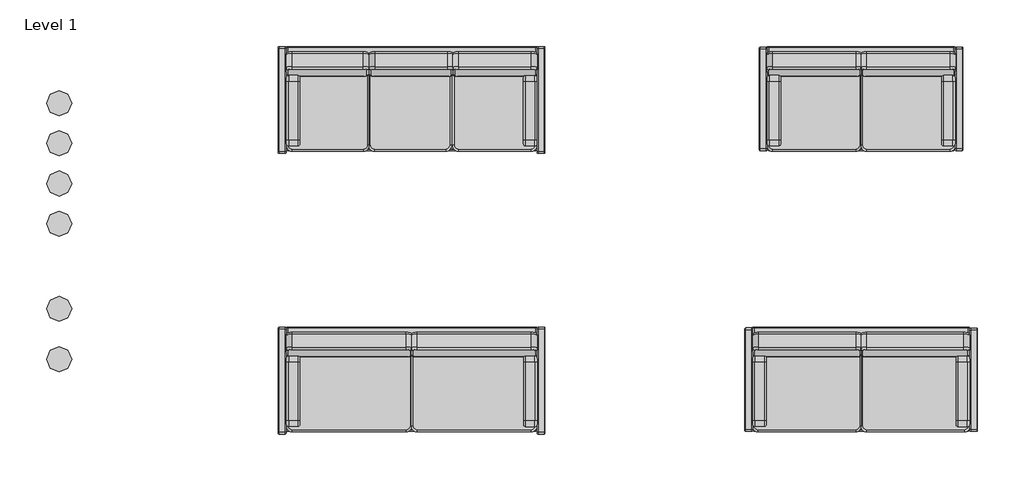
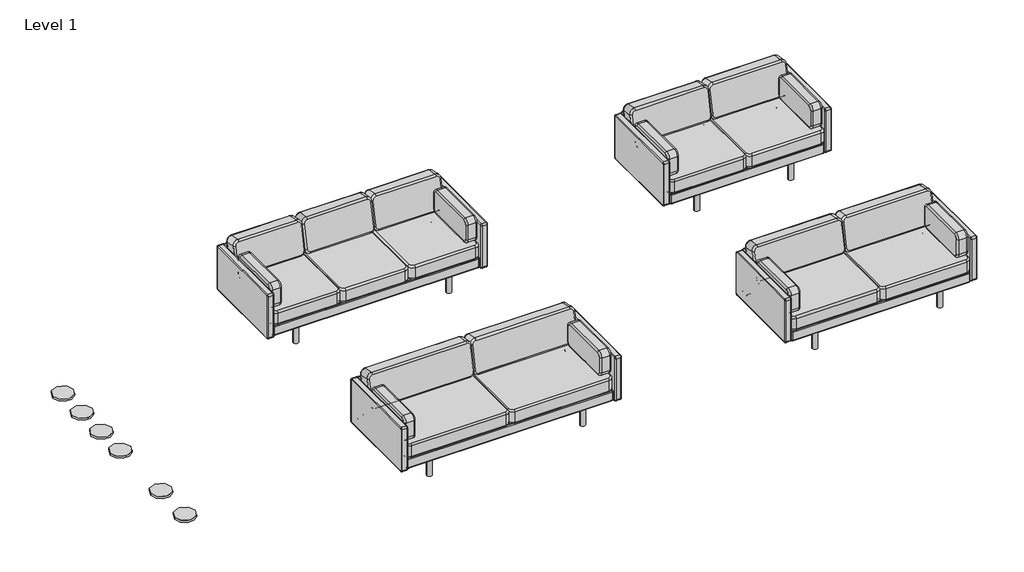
# One storey: 6 proxies, 4 furniture elements.
"""IFC4 building model written with IfcOpenShell, lengths in millimetres."""

from ifc_helpers import new_model, si_unit, origin, place, context, project, spatial, transform, mapped, element, save
from components import materialmodel_materialmodel_ac00f72a, furniture_535c16df, furniture_62b41049, furniture_a06d87e3, furniture_298e50f7, furniture_a2e73fbc, furniture_a04cfc03, furniture_aac3e620, furniture_254e2627, furniture_f1a134c2, furniture_044e4372, furniture_b410e468, furniture_08a45eda, furniture_6027f4fa

model = new_model("IFC4")

# Units and contexts
model_context = context("Model", 3, world=origin())
ifc_project = project(units=[si_unit("LENGTHUNIT", "METRE", prefix="MILLI")], contexts=[model_context])

# Site, building, storey
site = spatial("IfcSite", under=ifc_project)
building = spatial("IfcBuilding", under=site)
storey = spatial("IfcBuildingStorey", under=building, Name="Level 1", Elevation=0.0)

# Proxies
placement = place(None, origin())
materialmodel_materialmodel_shape = materialmodel_materialmodel_ac00f72a(model_context)
element("IfcBuildingElementProxy", 1, Name="MaterialModel : MaterialModel", ObjectType="MaterialModel : MaterialModel", at=placement, inside=storey, context=model_context, shape_type="MappedRepresentation", body=[
    mapped(materialmodel_materialmodel_shape, transform((-11701.407422, 6037.5703847, 0.0), x_axis=(1.0, 0.0, 0.0), y_axis=(0.0, 1.0, 0.0), z_axis=(0.0, 0.0, 1.0))),
])
element("IfcBuildingElementProxy", 2, Name="MaterialModel : MaterialModel", ObjectType="MaterialModel : MaterialModel", at=placement, inside=storey, context=model_context, shape_type="MappedRepresentation", body=[
    mapped(materialmodel_materialmodel_shape, transform((-11701.407422, 4639.9835986, 0.0), x_axis=(1.0, 0.0, 0.0), y_axis=(0.0, 1.0, 0.0), z_axis=(0.0, 0.0, 1.0))),
])
element("IfcBuildingElementProxy", 3, Name="MaterialModel : MaterialModel", ObjectType="MaterialModel : MaterialModel", at=placement, inside=storey, context=model_context, shape_type="MappedRepresentation", body=[
    mapped(materialmodel_materialmodel_shape, transform((-11701.407422, 6357.5703847, 0.0), x_axis=(1.0, 0.0, 0.0), y_axis=(0.0, 1.0, 0.0), z_axis=(0.0, 0.0, 1.0))),
])
element("IfcBuildingElementProxy", 4, Name="MaterialModel : MaterialModel", ObjectType="MaterialModel : MaterialModel", at=placement, inside=storey, context=model_context, shape_type="MappedRepresentation", body=[
    mapped(materialmodel_materialmodel_shape, transform((-11701.407422, 5039.9835986, 0.0), x_axis=(1.0, 0.0, 0.0), y_axis=(0.0, 1.0, 0.0), z_axis=(0.0, 0.0, 1.0))),
])
element("IfcBuildingElementProxy", 5, Name="MaterialModel : MaterialModel", ObjectType="MaterialModel : MaterialModel", at=placement, inside=storey, context=model_context, shape_type="MappedRepresentation", body=[
    mapped(materialmodel_materialmodel_shape, transform((-11701.407422, 5717.5703847, 0.0), x_axis=(1.0, 0.0, 0.0), y_axis=(0.0, 1.0, 0.0), z_axis=(0.0, 0.0, 1.0))),
])
element("IfcBuildingElementProxy", 6, Name="MaterialModel : MaterialModel", ObjectType="MaterialModel : MaterialModel", at=placement, inside=storey, context=model_context, shape_type="MappedRepresentation", body=[
    mapped(materialmodel_materialmodel_shape, transform((-11701.407422, 6677.5703847, 0.0), x_axis=(1.0, 0.0, 0.0), y_axis=(0.0, 1.0, 0.0), z_axis=(0.0, 0.0, 1.0))),
])

# Furniture
furniture_shape = furniture_535c16df(model_context)
furniture_2_shape = furniture_62b41049(model_context)
furniture_3_shape = furniture_a06d87e3(model_context)
element("IfcFurniture", 7, ObjectType="Fredericia - EJ220 Sofa 2 seater 100 - 2062 : Fredericia - EJ220 Sofa 2 seater 100 - 2062", at=placement, inside=storey, context=model_context, shape_type="MappedRepresentation", body=[
    mapped(furniture_shape, transform((-8896.0998676, 4044.3894266, 0.0), x_axis=(1.0, 0.0, 0.0), y_axis=(0.0, 1.0, 0.0), z_axis=(0.0, 0.0, 1.0))),
    mapped(furniture_2_shape, transform((-8896.0998676, 4044.3894266, 0.0), x_axis=(1.0, 0.0, 0.0), y_axis=(0.0, 1.0, 0.0), z_axis=(0.0, 0.0, 1.0))),
    mapped(furniture_3_shape, transform((-8896.0998676, 4044.3894266, 0.0), x_axis=(1.0, 0.0, 0.0), y_axis=(0.0, 1.0, 0.0), z_axis=(0.0, 0.0, 1.0))),
])
furniture_4_shape = furniture_298e50f7(model_context)
furniture_5_shape = furniture_a2e73fbc(model_context)
furniture_6_shape = furniture_a04cfc03(model_context)
element("IfcFurniture", 8, ObjectType="Fredericia - EJ220 Sofa 2 seater 86 - 2052 : Fredericia - EJ220 Sofa 2 seater 86 - 2052", at=placement, inside=storey, context=model_context, shape_type="MappedRepresentation", body=[
    mapped(furniture_4_shape, transform((-5318.7795904, 4044.3894266, 0.0), x_axis=(1.0, 0.0, 0.0), y_axis=(0.0, 1.0, 0.0), z_axis=(0.0, 0.0, 1.0))),
    mapped(furniture_5_shape, transform((-5318.7795904, 4044.3894266, 0.0), x_axis=(1.0, 0.0, 0.0), y_axis=(0.0, 1.0, 0.0), z_axis=(0.0, 0.0, 1.0))),
    mapped(furniture_6_shape, transform((-5318.7795904, 4044.3894266, 0.0), x_axis=(1.0, 0.0, 0.0), y_axis=(0.0, 1.0, 0.0), z_axis=(0.0, 0.0, 1.0))),
])
furniture_7_shape = furniture_aac3e620(model_context)
furniture_8_shape = furniture_254e2627(model_context)
furniture_9_shape = furniture_f1a134c2(model_context)
element("IfcFurniture", 9, ObjectType="Fredericia - EJ220 Sofa 2 seater 76 - 2042 : Fredericia - EJ220 Sofa 2 seater 76 - 2042", at=placement, inside=storey, context=model_context, shape_type="MappedRepresentation", body=[
    mapped(furniture_7_shape, transform((-5318.7795904, 6277.4148509, 0.0), x_axis=(1.0, 0.0, 0.0), y_axis=(0.0, 1.0, 0.0), z_axis=(0.0, 0.0, 1.0))),
    mapped(furniture_8_shape, transform((-5318.7795904, 6277.4148509, 0.0), x_axis=(1.0, 0.0, 0.0), y_axis=(0.0, 1.0, 0.0), z_axis=(0.0, 0.0, 1.0))),
    mapped(furniture_9_shape, transform((-5318.7795904, 6277.4148509, 0.0), x_axis=(1.0, 0.0, 0.0), y_axis=(0.0, 1.0, 0.0), z_axis=(0.0, 0.0, 1.0))),
])
furniture_10_shape = furniture_044e4372(model_context)
furniture_11_shape = furniture_b410e468(model_context)
furniture_12_shape = furniture_08a45eda(model_context)
furniture_13_shape = furniture_6027f4fa(model_context)
element("IfcFurniture", 10, ObjectType="Fredericia - EJ220 Sofa 3 seaters 67 - 2233 : Fredericia - EJ220 Sofa 3 seaters 67 - 2233", at=placement, inside=storey, context=model_context, shape_type="MappedRepresentation", body=[
    mapped(furniture_10_shape, transform((-8896.0998676, 6277.4148509, 0.0), x_axis=(1.0, 0.0, 0.0), y_axis=(0.0, 1.0, 0.0), z_axis=(0.0, 0.0, 1.0))),
    mapped(furniture_11_shape, transform((-8896.0998676, 6277.4148509, 0.0), x_axis=(1.0, 0.0, 0.0), y_axis=(0.0, 1.0, 0.0), z_axis=(0.0, 0.0, 1.0))),
    mapped(furniture_12_shape, transform((-8896.0998676, 6277.4148509, 0.0), x_axis=(1.0, 0.0, 0.0), y_axis=(0.0, 1.0, 0.0), z_axis=(0.0, 0.0, 1.0))),
    mapped(furniture_13_shape, transform((-8896.0998676, 6277.4148509, 0.0), x_axis=(1.0, 0.0, 0.0), y_axis=(0.0, 1.0, 0.0), z_axis=(0.0, 0.0, 1.0))),
])

save(model, "model.ifc")
